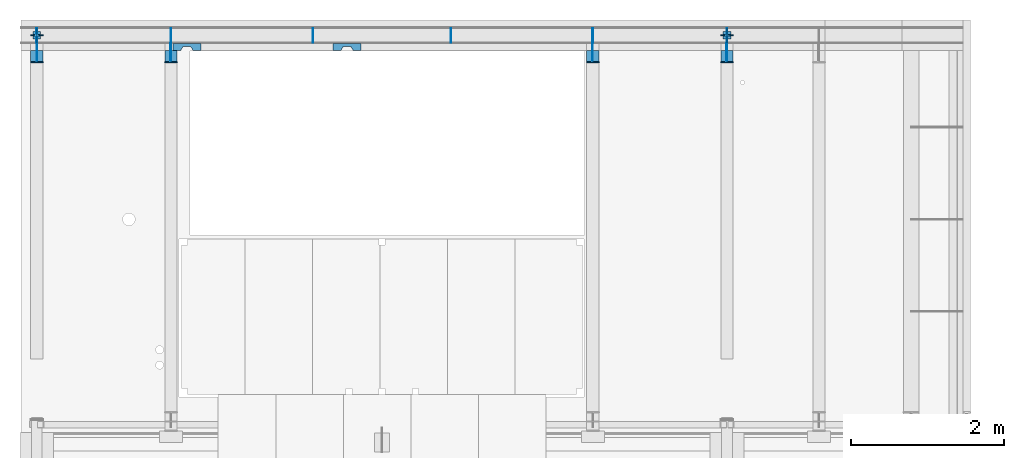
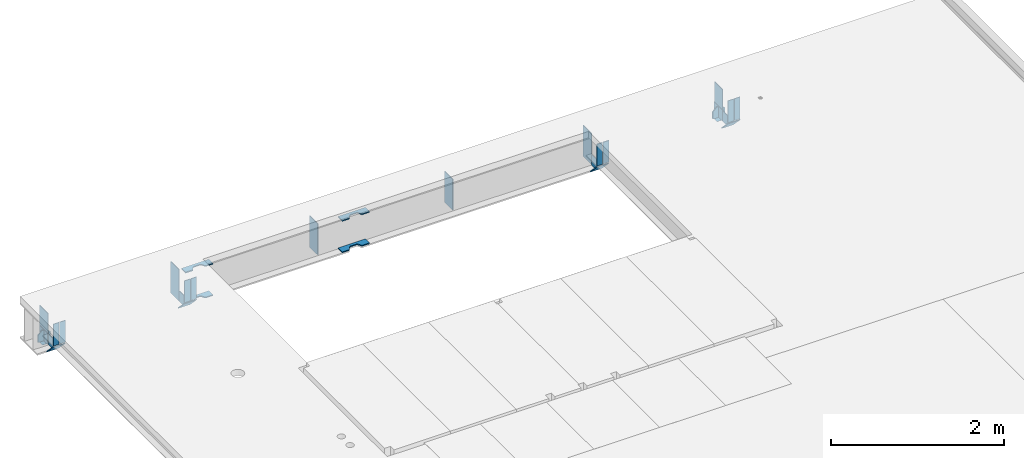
# One storey, part 5 of 13: 34 beams.
"""IFC2X3 building model written with IfcOpenShell, lengths in millimetres."""

from ifc_helpers import new_model, entity, si_unit, converted_unit, derived_unit, direction, frame, origin_with_axes, place, context, subcontext, project, spatial, faceted_brep, material, type_object, element, save


model = new_model("IFC2X3")

# Units and contexts
model_context = context("Model", 3, precision=0.01, world=frame((0.0, 4.29681676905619e-09, 0.0)), true_north=direction((4.01073788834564e-13, 1.0)))
plan_context = context("Plan", 3, precision=0.01, world=frame((0.0, 4.29681676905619e-09, 0.0)), true_north=direction((4.01073788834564e-13, 1.0)))
body_context = subcontext(model_context, "Body", "Model", "MODEL_VIEW")
ifc_project = project(units=[converted_unit("PLANEANGLEUNIT", "DEGREE", entity("IfcPositiveLengthMeasure", 0.0174532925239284), si_unit("PLANEANGLEUNIT", "RADIAN"), dimensions=[0, 0, 0, 0, 0, 0, 0]), si_unit("AREAUNIT", "SQUARE_METRE"), si_unit("LENGTHUNIT", "METRE", prefix="MILLI"), si_unit("MASSUNIT", "GRAM", prefix="KILO"), si_unit("POWERUNIT", "WATT"), si_unit("PRESSUREUNIT", "PASCAL", prefix="KILO"), si_unit("FORCEUNIT", "NEWTON", prefix="KILO"), si_unit("ELECTRICVOLTAGEUNIT", "VOLT"), si_unit("ELECTRICCURRENTUNIT", "AMPERE"), si_unit("THERMODYNAMICTEMPERATUREUNIT", "DEGREE_CELSIUS"), si_unit("TIMEUNIT", "SECOND"), si_unit("VOLUMEUNIT", "CUBIC_METRE"), derived_unit("LINEARVELOCITYUNIT", [(si_unit("LENGTHUNIT", "METRE"), 1), (si_unit("TIMEUNIT", "SECOND"), -1)]), derived_unit("VOLUMETRICFLOWRATEUNIT", [(si_unit("VOLUMEUNIT", "CUBIC_METRE"), 1), (si_unit("TIMEUNIT", "SECOND"), -1)]), derived_unit("THERMALTRANSMITTANCEUNIT", [(si_unit("POWERUNIT", "WATT"), 1), (si_unit("THERMODYNAMICTEMPERATUREUNIT", "KELVIN"), -1), (si_unit("AREAUNIT", "SQUARE_METRE"), -1)]), derived_unit("SOUNDPRESSUREUNIT", [(si_unit("PRESSUREUNIT", "PASCAL"), 1)])], contexts=[model_context, plan_context])

# Site, building, storey
site_placement = place(None, frame((0.0, -4.29681676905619e-09, 0.0), z_axis=(0.0, 0.0, 1.0), x_axis=(1.0, 0.0, 0.0)))
site = spatial("IfcSite", under=ifc_project, at=site_placement, Name="Gardermoen", CompositionType="ELEMENT")
building_placement = place(site_placement, frame((0.0, 4.29681676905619e-09, 0.0), z_axis=(0.0, 0.0, 1.0), x_axis=(1.0, 0.0, 0.0)))
building = spatial("IfcBuilding", under=site, at=building_placement, Name="TG", CompositionType="ELEMENT")
storey_placement = place(building_placement, origin_with_axes())
storey = spatial("IfcBuildingStorey", under=building, at=storey_placement, Name="G", CompositionType="ELEMENT", Elevation=0.0)

# Beams
ifc_material = material(Name="STEEL/S355")
beam_type_1 = type_object("IfcBeamType", Name="PL160*12", PredefinedType="NOTDEFINED")
beam_1_placement = place(storey_placement, frame((322000.000703, 467095.681694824, 213085.829873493), z_axis=(-1.0, 0.0, 0.0), x_axis=(0.0, -0.69502213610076, 0.718988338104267)))
element("IfcBeam", 1, at=beam_1_placement, inside=storey, type_object=beam_type_1, material=ifc_material, Name="STÅLBJELKE", ObjectType="PL160*12", context=body_context, shape_type="Brep", body=[
    faceted_brep([(-2.12196027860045e-07, 5.99999999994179, -80.0), (-2.12196027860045e-07, 5.99999999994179, 80.0), (208.626462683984, 6.00000000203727, 80.0), (208.626462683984, 6.00000000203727, -80.0), (-12.4137919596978, -5.99999999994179, 80.0), (220.226463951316, -5.99999999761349, 80.0), (-12.4137919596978, -5.99999999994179, -80.0), (220.226463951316, -5.99999999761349, -80.0)], [[[0, 1, 2, 3]], [[1, 4, 5, 2]], [[4, 6, 7, 5]], [[6, 0, 3, 7]], [[5, 7, 3, 2]], [[6, 4, 1, 0]]]),
])
for number, where, z_axis, x_axis in (
    (2, (330999.999765, 467095.681694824, 213085.829873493), (1.0, 0.0, 0.0), (0.0, -0.69502213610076, 0.718988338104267)),
    (3, (323749.999765, 467095.681694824, 213085.829873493), (1.0, 0.0, 0.0), (0.0, -0.69502213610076, 0.718988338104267)),
    (4, (329249.999765, 467095.681694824, 213085.829873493), (1.0, 0.0, 0.0), (0.0, -0.69502213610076, 0.718988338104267)),
):
    element("IfcBeam", number, at=place(storey_placement, frame(where, z_axis=z_axis, x_axis=x_axis)), inside=storey, type_object=beam_type_1, material=ifc_material, Name="STÅLBJELKE", ObjectType="PL160*12", context=body_context, shape_type="Brep", body=[
        faceted_brep([(-12.4137919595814, 6.0, -80.0), (-12.4137919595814, 6.0, 80.0), (220.226463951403, 5.99999999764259, 80.0), (220.226463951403, 5.99999999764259, -80.0), (-2.12108716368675e-07, -5.99999999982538, 80.0), (208.626462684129, -6.00000000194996, 80.0), (-2.12108716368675e-07, -5.99999999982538, -80.0), (208.626462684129, -6.00000000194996, -80.0)], [[[0, 1, 2, 3]], [[1, 4, 5, 2]], [[4, 6, 7, 5]], [[6, 0, 3, 7]], [[5, 7, 3, 2]], [[6, 4, 1, 0]]]),
    ])
beam_type_2 = type_object("IfcBeamType", Name="PL307*10", PredefinedType="NOTDEFINED")
for number, where, z_axis, x_axis in (
    (5, (322003.750703, 466949.995625, 213405.0), (0.0, 0.0, 1.0), (1.0, 0.0, 0.0)),
    (6, (321996.249765, 466949.995625, 213405.0), (0.0, 0.0, 1.0), (-1.0, 0.0, 0.0)),
    (7, (330996.249765, 466949.995625, 213405.0), (0.0, 0.0, 1.0), (-1.0, 0.0, 0.0)),
    (8, (331003.750703, 466949.995625, 213405.0), (0.0, 0.0, 1.0), (1.0, 0.0, 0.0)),
    (9, (323746.249765, 466949.995625, 213405.0), (0.0, 0.0, 1.0), (-1.0, 0.0, 0.0)),
    (10, (323753.750703, 466949.995625, 213405.0), (0.0, 0.0, 1.0), (1.0, 0.0, 0.0)),
    (11, (329246.249765, 466949.995625, 213405.0), (0.0, 0.0, 1.0), (-1.0, 0.0, 0.0)),
    (12, (329253.750703, 466949.995625, 213405.0), (0.0, 0.0, 1.0), (1.0, 0.0, 0.0)),
):
    element("IfcBeam", number, at=place(storey_placement, frame(where, z_axis=z_axis, x_axis=x_axis)), inside=storey, type_object=beam_type_2, material=ifc_material, Name="STÅLBJELKE", ObjectType="PL307*10", context=body_context, shape_type="Brep", body=[
        faceted_brep([(0.0, 5.0, -153.5), (0.0, 5.0, 153.5), (76.2490620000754, 5.0, 153.5), (76.2490620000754, 5.0, -153.5), (0.0, -5.0, 153.5), (76.2490620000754, -5.0, 153.5), (0.0, -5.0, -153.5), (76.2490620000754, -5.0, -153.5)], [[[0, 1, 2, 3]], [[1, 4, 5, 2]], [[4, 6, 7, 5]], [[6, 0, 3, 7]], [[5, 7, 3, 2]], [[6, 4, 1, 0]]]),
    ])
beam_type_3 = type_object("IfcBeamType", Name="PL8*150", PredefinedType="NOTDEFINED")
for number, where, z_axis, x_axis in (
    (13, (322003.999765, 467194.995625, 213090.0), (0.0, -0.999999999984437, -5.57899998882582e-06), (0.0, -5.57899998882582e-06, 0.999999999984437)),
    (14, (330996.000703, 467194.995625, 213090.0), (0.0, -0.999999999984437, -5.57899998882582e-06), (0.0, -5.57899998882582e-06, 0.999999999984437)),
    (15, (323746.000703, 467194.995625, 213090.0), (0.0, -0.999999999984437, -5.57899998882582e-06), (0.0, -5.57899998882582e-06, 0.999999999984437)),
    (16, (329246.000703, 467194.995625, 213090.0), (0.0, -0.999999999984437, -5.57899998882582e-06), (0.0, -5.57899998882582e-06, 0.999999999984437)),
):
    element("IfcBeam", number, at=place(storey_placement, frame(where, z_axis=z_axis, x_axis=x_axis)), inside=storey, type_object=beam_type_3, material=ifc_material, Name="STÅLBJELKE", ObjectType="PL8*150", context=body_context, shape_type="Brep", body=[
        faceted_brep([(0.0, -4.0, 0.0), (0.000519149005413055, -4.0, 95.0000000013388), (0.000519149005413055, 4.0, 95.0000000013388), (0.0, 4.0, 0.0), (150.001312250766, -4.0, 240.000000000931), (150.001312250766, 4.0, 240.000000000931), (149.999999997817, -4.0, -3.55066731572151e-09), (149.999999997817, 4.0, -3.55066731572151e-09)], [[[0, 1, 2, 3]], [[1, 4, 5, 2]], [[4, 6, 7, 5]], [[6, 0, 3, 7]], [[5, 7, 3, 2]], [[6, 4, 1, 0]]]),
    ])
beam_type_4 = type_object("IfcBeamType", Name="PL190*10", PredefinedType="NOTDEFINED")
for number, where, z_axis, x_axis in (
    (17, (321999.999765, 467300.004375, 213530.0), (0.0, -1.0, 0.0), (0.0, 0.0, -1.0)),
    (18, (331000.000703, 467300.004375, 213530.0), (0.0, -1.0, 0.0), (0.0, 0.0, -1.0)),
    (19, (329250.000703, 467300.004375, 213530.0), (0.0, -1.0, 0.0), (0.0, 0.0, -1.0)),
    (20, (327400.000703, 467300.004375, 213530.0), (0.0, -1.0, 0.0), (0.0, 0.0, -1.0)),
    (21, (325600.000703, 467300.004375, 213530.0), (0.0, -1.0, 0.0), (0.0, 0.0, -1.0)),
    (22, (323750.000703, 467300.004375, 213530.0), (0.0, -1.0, 0.0), (0.0, 0.0, -1.0)),
):
    element("IfcBeam", number, at=place(storey_placement, frame(where, z_axis=z_axis, x_axis=x_axis)), inside=storey, type_object=beam_type_4, material=ifc_material, Name="STÅLBJELKE", ObjectType="PL190*10", context=body_context, shape_type="Brep", body=[
        faceted_brep([(0.0, 5.0, -95.0), (0.0, 5.0, 95.0), (439.999385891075, 5.0, 95.0), (439.999385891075, 5.0, -95.0), (0.0, -5.0, 95.0), (439.999385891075, -5.0, 95.0), (0.0, -5.0, -95.0), (439.999385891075, -5.0, -95.0)], [[[0, 1, 2, 3]], [[1, 4, 5, 2]], [[4, 6, 7, 5]], [[6, 0, 3, 7]], [[5, 7, 3, 2]], [[6, 4, 1, 0]]]),
    ])
beam_type_5 = type_object("IfcBeamType", Name="PL3*100", PredefinedType="NOTDEFINED")
for number, where, z_axis, x_axis in (
    (23, (321950.000703, 467350.004375, 213068.5), (0.0, -1.0, 0.0), (1.0, 0.0, 0.0)),
    (24, (331049.999765, 467350.004375, 213068.5), (0.0, -1.0, 0.0), (-1.0, 0.0, 0.0)),
):
    element("IfcBeam", number, at=place(storey_placement, frame(where, z_axis=z_axis, x_axis=x_axis)), inside=storey, type_object=beam_type_5, material=ifc_material, Name="STÅLBJELKE", ObjectType="PL3*100", context=body_context, shape_type="Brep", body=[
        faceted_brep([(0.0, -1.5, 0.0), (0.0, -1.5, 100.0), (0.0, 1.5, 100.0), (0.0, 1.5, 0.0), (100.0, -1.5, 100.0), (100.0, 1.5, 100.0), (100.0, -1.5, 0.0), (100.0, 1.5, 0.0)], [[[0, 1, 2, 3]], [[1, 4, 5, 2]], [[4, 6, 7, 5]], [[6, 0, 3, 7]], [[5, 7, 3, 2]], [[6, 4, 1, 0]]]),
    ])
beam_type_6 = type_object("IfcBeamType", Name="PL15*75", PredefinedType="NOTDEFINED")
for number, where, z_axis, x_axis in (
    (25, (321917.499765, 467299.998097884, 213090.0), (0.0, 0.0, 1.0), (1.0, 0.0, 0.0)),
    (26, (322082.499765, 467299.998097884, 213090.0), (0.0, 0.0, 1.0), (-1.0, 0.0, 0.0)),
    (27, (331082.500703, 467299.998097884, 213090.0), (0.0, 0.0, 1.0), (-1.0, 0.0, 0.0)),
    (28, (330917.500703, 467299.998097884, 213090.0), (0.0, 0.0, 1.0), (1.0, 0.0, 0.0)),
):
    element("IfcBeam", number, at=place(storey_placement, frame(where, z_axis=z_axis, x_axis=x_axis)), inside=storey, type_object=beam_type_6, material=ifc_material, Name="STÅLBJELKE", ObjectType="PL15*75", context=body_context, shape_type="Brep", body=[
        faceted_brep([(0.0, -7.5, 0.0), (0.0, -7.5, 100.0), (0.0, 7.5, 100.0), (0.0, 7.5, 0.0), (50.0, -7.5, 150.0), (50.0, 7.5, 150.0), (75.0, -7.5, 150.0), (75.0, 7.5, 150.0), (75.0, -7.5, 0.0), (75.0, 7.5, 0.0)], [[[0, 1, 2, 3]], [[1, 4, 5, 2]], [[4, 6, 7, 5]], [[6, 8, 9, 7]], [[8, 0, 3, 9]], [[5, 7, 9, 3, 2]], [[8, 6, 4, 1, 0]]]),
    ])
beam_type_7 = type_object("IfcBeamType", Name="PL190*15", PredefinedType="NOTDEFINED")
for number, where, z_axis, x_axis in (
    (29, (321999.999765, 467299.995625, 213250.0), (0.0, 1.0, 0.0), (0.0, 0.0, -1.0)),
    (30, (331000.000703, 467299.995625, 213250.0), (0.0, 1.0, 0.0), (0.0, 0.0, -1.0)),
):
    element("IfcBeam", number, at=place(storey_placement, frame(where, z_axis=z_axis, x_axis=x_axis)), inside=storey, type_object=beam_type_7, material=ifc_material, Name="STÅLBJELKE", ObjectType="PL190*15", context=body_context, shape_type="Brep", body=[
        faceted_brep([(0.0, 7.5, -95.0), (0.0, 7.5, 95.0), (159.999369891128, 7.5, 95.0), (159.999369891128, 7.5, -95.0), (0.0, -7.5, 95.0), (159.999369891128, -7.5, 95.0), (0.0, -7.5, -95.0), (159.999369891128, -7.5, -95.0)], [[[0, 1, 2, 3]], [[1, 4, 5, 2]], [[4, 6, 7, 5]], [[6, 0, 3, 7]], [[5, 7, 3, 2]], [[6, 4, 1, 0]]]),
    ])
beam_type_8 = type_object("IfcBeamType", Name="PL15*95", PredefinedType="NOTDEFINED")
beam_2_placement = place(storey_placement, frame((326225.999765, 467195.004375, 213097.5), z_axis=(0.0, -1.0, 0.0), x_axis=(-1.0, 0.0, 0.0)))
element("IfcBeam", 31, at=beam_2_placement, inside=storey, type_object=beam_type_8, material=ifc_material, Name="STÅLBJELKE", ObjectType="PL15*95", context=body_context, shape_type="Brep", body=[
    faceted_brep([(0.0, -7.5, 0.0), (0.0, -7.5, 95.0), (0.0, 7.5, 95.0), (0.0, 7.5, 0.0), (100.0, -7.5, 95.0), (100.0, 7.5, 95.0), (124.769361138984, -7.5, 52.4276605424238), (124.769361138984, 7.5, 52.4276605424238), (127.271819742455, -7.5, 48.8769972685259), (127.271819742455, 7.5, 48.8769972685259), (130.351119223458, -7.5, 45.8131070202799), (130.351119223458, 7.5, 45.8131070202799), (133.914291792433, -7.5, 43.3284923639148), (133.914291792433, 7.5, 43.3284923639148), (137.853760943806, -7.5, 41.4981668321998), (137.853760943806, 7.5, 41.4981668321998), (142.050589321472, -7.5, 40.3773901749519), (142.050589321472, 7.5, 40.3773901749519), (146.378069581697, -7.5, 40.0), (146.378069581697, 7.5, 40.0), (217.621930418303, -7.5, 40.0), (217.621930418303, 7.5, 40.0), (221.949410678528, -7.5, 40.3773901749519), (221.949410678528, 7.5, 40.3773901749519), (226.146239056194, -7.5, 41.4981668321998), (226.146239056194, 7.5, 41.4981668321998), (230.085708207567, -7.5, 43.3284923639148), (230.085708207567, 7.5, 43.3284923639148), (233.648880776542, -7.5, 45.8131070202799), (233.648880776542, 7.5, 45.8131070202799), (236.728180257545, -7.5, 48.8769972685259), (236.728180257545, 7.5, 48.8769972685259), (239.230638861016, -7.5, 52.4276605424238), (239.230638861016, 7.5, 52.4276605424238), (264.0, -7.5, 95.0), (264.0, 7.5, 95.0), (364.0, -7.5, 95.0), (364.0, 7.5, 95.0), (364.0, -7.5, 0.0), (364.0, 7.5, 0.0)], [[[0, 1, 2, 3]], [[1, 4, 5, 2]], [[4, 6, 7, 5]], [[6, 8, 9, 7]], [[8, 10, 11, 9]], [[10, 12, 13, 11]], [[12, 14, 15, 13]], [[14, 16, 17, 15]], [[16, 18, 19, 17]], [[18, 20, 21, 19]], [[20, 22, 23, 21]], [[22, 24, 25, 23]], [[24, 26, 27, 25]], [[26, 28, 29, 27]], [[28, 30, 31, 29]], [[30, 32, 33, 31]], [[32, 34, 35, 33]], [[34, 36, 37, 35]], [[36, 38, 39, 37]], [[38, 0, 3, 39]], [[5, 7, 9, 11, 13, 15, 17, 19, 21, 23, 25, 27, 29, 31, 33, 35, 37, 39, 3, 2]], [[38, 36, 34, 32, 30, 28, 26, 24, 22, 20, 18, 16, 14, 12, 10, 8, 6, 4, 1, 0]]]),
])
beam_3_placement = place(storey_placement, frame((326225.999765, 467195.004375, 213542.5), z_axis=(0.0, -1.0, 0.0), x_axis=(-1.0, 0.0, 0.0)))
element("IfcBeam", 32, at=beam_3_placement, inside=storey, type_object=beam_type_8, material=ifc_material, Name="STÅLBJELKE", ObjectType="PL15*95", context=body_context, shape_type="Brep", body=[
    faceted_brep([(0.0, -7.5, 0.0), (0.0, -7.5, 95.0), (0.0, 7.5, 95.0), (0.0, 7.5, 0.0), (100.0, -7.5, 95.0), (100.0, 7.5, 95.0), (124.769361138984, -7.5, 52.4276605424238), (124.769361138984, 7.5, 52.4276605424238), (127.271819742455, -7.5, 48.8769972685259), (127.271819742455, 7.5, 48.8769972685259), (130.351119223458, -7.5, 45.8131070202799), (130.351119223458, 7.5, 45.8131070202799), (133.914291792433, -7.5, 43.3284923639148), (133.914291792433, 7.5, 43.3284923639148), (137.853760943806, -7.5, 41.4981668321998), (137.853760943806, 7.5, 41.4981668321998), (142.050589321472, -7.5, 40.3773901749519), (142.050589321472, 7.5, 40.3773901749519), (146.378069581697, -7.5, 40.0), (146.378069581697, 7.5, 40.0), (217.621930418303, -7.5, 40.0), (217.621930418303, 7.5, 40.0), (221.949410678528, -7.5, 40.3773901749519), (221.949410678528, 7.5, 40.3773901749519), (226.146239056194, -7.5, 41.4981668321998), (226.146239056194, 7.5, 41.4981668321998), (230.085708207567, -7.5, 43.3284923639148), (230.085708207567, 7.5, 43.3284923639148), (233.648880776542, -7.5, 45.8131070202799), (233.648880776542, 7.5, 45.8131070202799), (236.728180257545, -7.5, 48.8769972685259), (236.728180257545, 7.5, 48.8769972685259), (239.230638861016, -7.5, 52.4276605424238), (239.230638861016, 7.5, 52.4276605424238), (264.0, -7.5, 95.0), (264.0, 7.5, 95.0), (364.0, -7.5, 95.0), (364.0, 7.5, 95.0), (364.0, -7.5, 0.0), (364.0, 7.5, 0.0)], [[[0, 1, 2, 3]], [[1, 4, 5, 2]], [[4, 6, 7, 5]], [[6, 8, 9, 7]], [[8, 10, 11, 9]], [[10, 12, 13, 11]], [[12, 14, 15, 13]], [[14, 16, 17, 15]], [[16, 18, 19, 17]], [[18, 20, 21, 19]], [[20, 22, 23, 21]], [[22, 24, 25, 23]], [[24, 26, 27, 25]], [[26, 28, 29, 27]], [[28, 30, 31, 29]], [[30, 32, 33, 31]], [[32, 34, 35, 33]], [[34, 36, 37, 35]], [[36, 38, 39, 37]], [[38, 0, 3, 39]], [[5, 7, 9, 11, 13, 15, 17, 19, 21, 23, 25, 27, 29, 31, 33, 35, 37, 39, 3, 2]], [[38, 36, 34, 32, 30, 28, 26, 24, 22, 20, 18, 16, 14, 12, 10, 8, 6, 4, 1, 0]]]),
])
beam_4_placement = place(storey_placement, frame((324137.999765, 467195.004375, 213097.5), z_axis=(0.0, -1.0, 0.0), x_axis=(-1.0, 0.0, 0.0)))
element("IfcBeam", 33, at=beam_4_placement, inside=storey, type_object=beam_type_8, material=ifc_material, Name="STÅLBJELKE", ObjectType="PL15*95", context=body_context, shape_type="Brep", body=[
    faceted_brep([(0.0, -7.5, 0.0), (0.0, -7.5, 95.0), (0.0, 7.5, 95.0), (0.0, 7.5, 0.0), (100.0, -7.5, 95.0), (100.0, 7.5, 95.0), (124.769361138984, -7.5, 52.4276605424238), (124.769361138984, 7.5, 52.4276605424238), (127.271819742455, -7.5, 48.8769972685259), (127.271819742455, 7.5, 48.8769972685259), (130.351119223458, -7.5, 45.8131070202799), (130.351119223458, 7.5, 45.8131070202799), (133.914291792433, -7.5, 43.3284923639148), (133.914291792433, 7.5, 43.3284923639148), (137.853760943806, -7.5, 41.4981668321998), (137.853760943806, 7.5, 41.4981668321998), (142.050589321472, -7.5, 40.3773901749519), (142.050589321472, 7.5, 40.3773901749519), (146.378069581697, -7.5, 40.0), (146.378069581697, 7.5, 40.0), (217.621930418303, -7.5, 40.0), (217.621930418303, 7.5, 40.0), (221.949410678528, -7.5, 40.3773901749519), (221.949410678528, 7.5, 40.3773901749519), (226.146239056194, -7.5, 41.4981668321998), (226.146239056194, 7.5, 41.4981668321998), (230.085708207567, -7.5, 43.3284923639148), (230.085708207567, 7.5, 43.3284923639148), (233.648880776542, -7.5, 45.8131070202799), (233.648880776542, 7.5, 45.8131070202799), (236.728180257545, -7.5, 48.8769972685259), (236.728180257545, 7.5, 48.8769972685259), (239.230638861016, -7.5, 52.4276605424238), (239.230638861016, 7.5, 52.4276605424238), (264.0, -7.5, 95.0), (264.0, 7.5, 95.0), (364.0, -7.5, 95.0), (364.0, 7.5, 95.0), (364.0, -7.5, 0.0), (364.0, 7.5, 0.0)], [[[0, 1, 2, 3]], [[1, 4, 5, 2]], [[4, 6, 7, 5]], [[6, 8, 9, 7]], [[8, 10, 11, 9]], [[10, 12, 13, 11]], [[12, 14, 15, 13]], [[14, 16, 17, 15]], [[16, 18, 19, 17]], [[18, 20, 21, 19]], [[20, 22, 23, 21]], [[22, 24, 25, 23]], [[24, 26, 27, 25]], [[26, 28, 29, 27]], [[28, 30, 31, 29]], [[30, 32, 33, 31]], [[32, 34, 35, 33]], [[34, 36, 37, 35]], [[36, 38, 39, 37]], [[38, 0, 3, 39]], [[5, 7, 9, 11, 13, 15, 17, 19, 21, 23, 25, 27, 29, 31, 33, 35, 37, 39, 3, 2]], [[38, 36, 34, 32, 30, 28, 26, 24, 22, 20, 18, 16, 14, 12, 10, 8, 6, 4, 1, 0]]]),
])
beam_5_placement = place(storey_placement, frame((324137.999765, 467195.004375, 213542.5), z_axis=(0.0, -1.0, 0.0), x_axis=(-1.0, 0.0, 0.0)))
element("IfcBeam", 34, at=beam_5_placement, inside=storey, type_object=beam_type_8, material=ifc_material, Name="STÅLBJELKE", ObjectType="PL15*95", context=body_context, shape_type="Brep", body=[
    faceted_brep([(0.0, -7.5, 0.0), (0.0, -7.5, 95.0), (0.0, 7.5, 95.0), (0.0, 7.5, 0.0), (100.0, -7.5, 95.0), (100.0, 7.5, 95.0), (124.769361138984, -7.5, 52.4276605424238), (124.769361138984, 7.5, 52.4276605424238), (127.271819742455, -7.5, 48.8769972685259), (127.271819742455, 7.5, 48.8769972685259), (130.351119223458, -7.5, 45.8131070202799), (130.351119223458, 7.5, 45.8131070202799), (133.914291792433, -7.5, 43.3284923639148), (133.914291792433, 7.5, 43.3284923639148), (137.853760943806, -7.5, 41.4981668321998), (137.853760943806, 7.5, 41.4981668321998), (142.050589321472, -7.5, 40.3773901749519), (142.050589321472, 7.5, 40.3773901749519), (146.378069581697, -7.5, 40.0), (146.378069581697, 7.5, 40.0), (217.621930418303, -7.5, 40.0), (217.621930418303, 7.5, 40.0), (221.949410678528, -7.5, 40.3773901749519), (221.949410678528, 7.5, 40.3773901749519), (226.146239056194, -7.5, 41.4981668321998), (226.146239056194, 7.5, 41.4981668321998), (230.085708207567, -7.5, 43.3284923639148), (230.085708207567, 7.5, 43.3284923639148), (233.648880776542, -7.5, 45.8131070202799), (233.648880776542, 7.5, 45.8131070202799), (236.728180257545, -7.5, 48.8769972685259), (236.728180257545, 7.5, 48.8769972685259), (239.230638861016, -7.5, 52.4276605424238), (239.230638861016, 7.5, 52.4276605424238), (264.0, -7.5, 95.0), (264.0, 7.5, 95.0), (364.0, -7.5, 95.0), (364.0, 7.5, 95.0), (364.0, -7.5, 0.0), (364.0, 7.5, 0.0)], [[[0, 1, 2, 3]], [[1, 4, 5, 2]], [[4, 6, 7, 5]], [[6, 8, 9, 7]], [[8, 10, 11, 9]], [[10, 12, 13, 11]], [[12, 14, 15, 13]], [[14, 16, 17, 15]], [[16, 18, 19, 17]], [[18, 20, 21, 19]], [[20, 22, 23, 21]], [[22, 24, 25, 23]], [[24, 26, 27, 25]], [[26, 28, 29, 27]], [[28, 30, 31, 29]], [[30, 32, 33, 31]], [[32, 34, 35, 33]], [[34, 36, 37, 35]], [[36, 38, 39, 37]], [[38, 0, 3, 39]], [[5, 7, 9, 11, 13, 15, 17, 19, 21, 23, 25, 27, 29, 31, 33, 35, 37, 39, 3, 2]], [[38, 36, 34, 32, 30, 28, 26, 24, 22, 20, 18, 16, 14, 12, 10, 8, 6, 4, 1, 0]]]),
])

save(model, "model.ifc")
